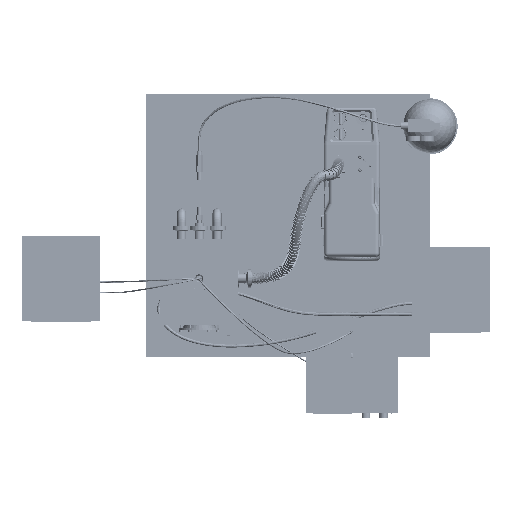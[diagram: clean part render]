
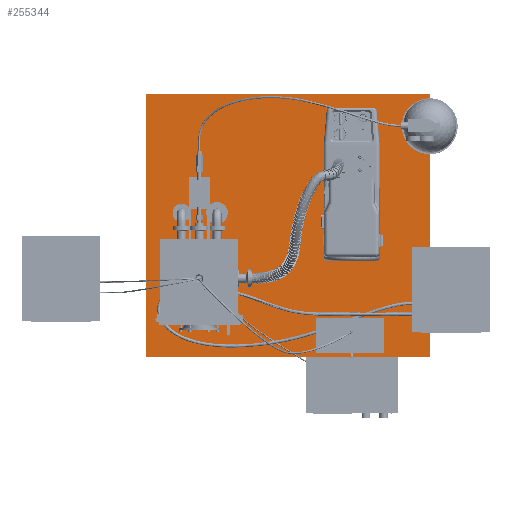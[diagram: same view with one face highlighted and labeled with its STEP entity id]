
A CAD part, top view. The second image highlights one B-rep face of the part: STEP entity #255344.
In plain terms, the highlighted planar face has unit normal (0, 0, 1).
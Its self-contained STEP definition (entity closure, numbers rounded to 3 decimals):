
#255030 = VERTEX_POINT('',#255031);
#255031 = CARTESIAN_POINT('',(-150.,-220.,-314.));
#255038 = PLANE('',#255039);
#255039 = AXIS2_PLACEMENT_3D('',#255040,#255041,#255042);
#255040 = CARTESIAN_POINT('',(-150.,-220.,-320.));
#255041 = DIRECTION('',(1.,0.,0.));
#255042 = DIRECTION('',(0.,0.,1.));
#255050 = PLANE('',#255051);
#255051 = AXIS2_PLACEMENT_3D('',#255052,#255053,#255054);
#255052 = CARTESIAN_POINT('',(-150.,-220.,-320.));
#255053 = DIRECTION('',(0.,1.,0.));
#255054 = DIRECTION('',(0.,0.,1.));
#255091 = VERTEX_POINT('',#255092);
#255092 = CARTESIAN_POINT('',(-150.,520.,-314.));
#255106 = PLANE('',#255107);
#255107 = AXIS2_PLACEMENT_3D('',#255108,#255109,#255110);
#255108 = CARTESIAN_POINT('',(-150.,520.,-320.));
#255109 = DIRECTION('',(0.,1.,0.));
#255110 = DIRECTION('',(0.,0.,1.));
#255118 = EDGE_CURVE('',#255030,#255091,#255119,.T.);
#255119 = SURFACE_CURVE('',#255120,(#255124,#255131),.PCURVE_S1.);
#255120 = LINE('',#255121,#255122);
#255121 = CARTESIAN_POINT('',(-150.,-220.,-314.));
#255122 = VECTOR('',#255123,1.);
#255123 = DIRECTION('',(0.,1.,0.));
#255124 = PCURVE('',#255038,#255125);
#255125 = DEFINITIONAL_REPRESENTATION('',(#255126),#255130);
#255126 = LINE('',#255127,#255128);
#255127 = CARTESIAN_POINT('',(6.,0.));
#255128 = VECTOR('',#255129,1.);
#255129 = DIRECTION('',(0.,-1.));
#255130 = ( GEOMETRIC_REPRESENTATION_CONTEXT(2) 
PARAMETRIC_REPRESENTATION_CONTEXT() REPRESENTATION_CONTEXT('2D SPACE',''
  ) );
#255131 = PCURVE('',#255132,#255137);
#255132 = PLANE('',#255133);
#255133 = AXIS2_PLACEMENT_3D('',#255134,#255135,#255136);
#255134 = CARTESIAN_POINT('',(-150.,-220.,-314.));
#255135 = DIRECTION('',(0.,0.,1.));
#255136 = DIRECTION('',(1.,0.,0.));
#255137 = DEFINITIONAL_REPRESENTATION('',(#255138),#255142);
#255138 = LINE('',#255139,#255140);
#255139 = CARTESIAN_POINT('',(0.,0.));
#255140 = VECTOR('',#255141,1.);
#255141 = DIRECTION('',(0.,1.));
#255142 = ( GEOMETRIC_REPRESENTATION_CONTEXT(2) 
PARAMETRIC_REPRESENTATION_CONTEXT() REPRESENTATION_CONTEXT('2D SPACE',''
  ) );
#255150 = VERTEX_POINT('',#255151);
#255151 = CARTESIAN_POINT('',(650.,-220.,-314.));
#255158 = PLANE('',#255159);
#255159 = AXIS2_PLACEMENT_3D('',#255160,#255161,#255162);
#255160 = CARTESIAN_POINT('',(650.,-220.,-320.));
#255161 = DIRECTION('',(1.,0.,0.));
#255162 = DIRECTION('',(0.,0.,1.));
#255201 = VERTEX_POINT('',#255202);
#255202 = CARTESIAN_POINT('',(650.,520.,-314.));
#255223 = EDGE_CURVE('',#255150,#255201,#255224,.T.);
#255224 = SURFACE_CURVE('',#255225,(#255229,#255236),.PCURVE_S1.);
#255225 = LINE('',#255226,#255227);
#255226 = CARTESIAN_POINT('',(650.,-220.,-314.));
#255227 = VECTOR('',#255228,1.);
#255228 = DIRECTION('',(0.,1.,0.));
#255229 = PCURVE('',#255158,#255230);
#255230 = DEFINITIONAL_REPRESENTATION('',(#255231),#255235);
#255231 = LINE('',#255232,#255233);
#255232 = CARTESIAN_POINT('',(6.,0.));
#255233 = VECTOR('',#255234,1.);
#255234 = DIRECTION('',(0.,-1.));
#255235 = ( GEOMETRIC_REPRESENTATION_CONTEXT(2) 
PARAMETRIC_REPRESENTATION_CONTEXT() REPRESENTATION_CONTEXT('2D SPACE',''
  ) );
#255236 = PCURVE('',#255132,#255237);
#255237 = DEFINITIONAL_REPRESENTATION('',(#255238),#255242);
#255238 = LINE('',#255239,#255240);
#255239 = CARTESIAN_POINT('',(800.,0.));
#255240 = VECTOR('',#255241,1.);
#255241 = DIRECTION('',(0.,1.));
#255242 = ( GEOMETRIC_REPRESENTATION_CONTEXT(2) 
PARAMETRIC_REPRESENTATION_CONTEXT() REPRESENTATION_CONTEXT('2D SPACE',''
  ) );
#255269 = EDGE_CURVE('',#255030,#255150,#255270,.T.);
#255270 = SURFACE_CURVE('',#255271,(#255275,#255282),.PCURVE_S1.);
#255271 = LINE('',#255272,#255273);
#255272 = CARTESIAN_POINT('',(-150.,-220.,-314.));
#255273 = VECTOR('',#255274,1.);
#255274 = DIRECTION('',(1.,0.,0.));
#255275 = PCURVE('',#255050,#255276);
#255276 = DEFINITIONAL_REPRESENTATION('',(#255277),#255281);
#255277 = LINE('',#255278,#255279);
#255278 = CARTESIAN_POINT('',(6.,0.));
#255279 = VECTOR('',#255280,1.);
#255280 = DIRECTION('',(0.,1.));
#255281 = ( GEOMETRIC_REPRESENTATION_CONTEXT(2) 
PARAMETRIC_REPRESENTATION_CONTEXT() REPRESENTATION_CONTEXT('2D SPACE',''
  ) );
#255282 = PCURVE('',#255132,#255283);
#255283 = DEFINITIONAL_REPRESENTATION('',(#255284),#255288);
#255284 = LINE('',#255285,#255286);
#255285 = CARTESIAN_POINT('',(0.,0.));
#255286 = VECTOR('',#255287,1.);
#255287 = DIRECTION('',(1.,0.));
#255288 = ( GEOMETRIC_REPRESENTATION_CONTEXT(2) 
PARAMETRIC_REPRESENTATION_CONTEXT() REPRESENTATION_CONTEXT('2D SPACE',''
  ) );
#255316 = EDGE_CURVE('',#255091,#255201,#255317,.T.);
#255317 = SURFACE_CURVE('',#255318,(#255322,#255329),.PCURVE_S1.);
#255318 = LINE('',#255319,#255320);
#255319 = CARTESIAN_POINT('',(-150.,520.,-314.));
#255320 = VECTOR('',#255321,1.);
#255321 = DIRECTION('',(1.,0.,0.));
#255322 = PCURVE('',#255106,#255323);
#255323 = DEFINITIONAL_REPRESENTATION('',(#255324),#255328);
#255324 = LINE('',#255325,#255326);
#255325 = CARTESIAN_POINT('',(6.,0.));
#255326 = VECTOR('',#255327,1.);
#255327 = DIRECTION('',(0.,1.));
#255328 = ( GEOMETRIC_REPRESENTATION_CONTEXT(2) 
PARAMETRIC_REPRESENTATION_CONTEXT() REPRESENTATION_CONTEXT('2D SPACE',''
  ) );
#255329 = PCURVE('',#255132,#255330);
#255330 = DEFINITIONAL_REPRESENTATION('',(#255331),#255335);
#255331 = LINE('',#255332,#255333);
#255332 = CARTESIAN_POINT('',(0.,740.));
#255333 = VECTOR('',#255334,1.);
#255334 = DIRECTION('',(1.,0.));
#255335 = ( GEOMETRIC_REPRESENTATION_CONTEXT(2) 
PARAMETRIC_REPRESENTATION_CONTEXT() REPRESENTATION_CONTEXT('2D SPACE',''
  ) );
#255344 = ADVANCED_FACE('',(#255345),#255132,.T.);
#255345 = FACE_BOUND('',#255346,.T.);
#255346 = EDGE_LOOP('',(#255347,#255348,#255349,#255350));
#255347 = ORIENTED_EDGE('',*,*,#255118,.F.);
#255348 = ORIENTED_EDGE('',*,*,#255269,.T.);
#255349 = ORIENTED_EDGE('',*,*,#255223,.T.);
#255350 = ORIENTED_EDGE('',*,*,#255316,.F.);
